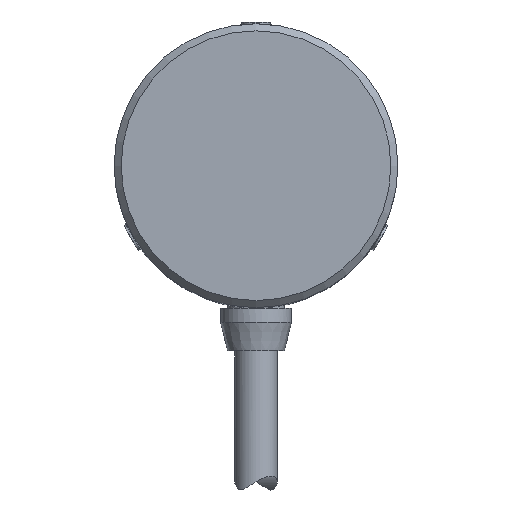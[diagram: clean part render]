
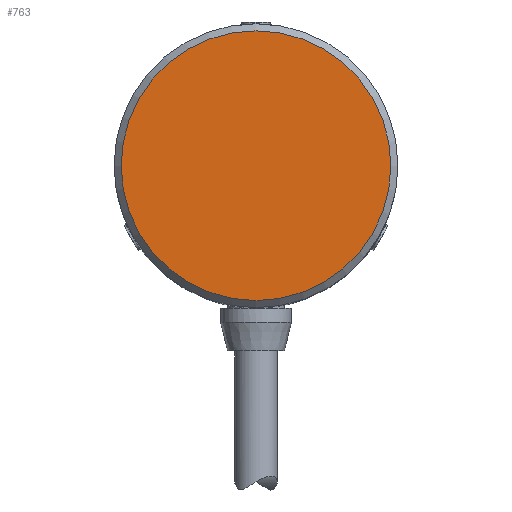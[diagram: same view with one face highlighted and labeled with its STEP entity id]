
A CAD part, top view. The second image highlights one B-rep face of the part: STEP entity #763.
In plain terms, the highlighted planar face has unit normal (0, 0, 1).
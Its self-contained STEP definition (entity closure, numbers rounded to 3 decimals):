
#763=ADVANCED_FACE('',(#1220),#1221,.T.);
#1220=FACE_OUTER_BOUND('',#1786,.T.);
#1221=PLANE('',#1787);
#1786=EDGE_LOOP('',(#2437));
#1787=AXIS2_PLACEMENT_3D('',#2438,#2439,#2440);
#2437=ORIENTED_EDGE('',*,*,#3004,.T.);
#2438=CARTESIAN_POINT('',(0.,0.,21.0));
#2439=DIRECTION('',(0.0,0.0,1.0));
#2440=DIRECTION('',(1.0,0.0,0.0));
#3004=EDGE_CURVE('',#3407,#3407,#3408,.T.);
#3407=VERTEX_POINT('',#4256);
#3408=CIRCLE('',#4257,9.5);
#4256=CARTESIAN_POINT('',(9.5,0.,21.0));
#4257=AXIS2_PLACEMENT_3D('',#4951,#4952,#4953);
#4951=CARTESIAN_POINT('',(0.,0.,21.0));
#4952=DIRECTION('',(0.0,0.0,1.0));
#4953=DIRECTION('',(1.0,0.0,0.0));
